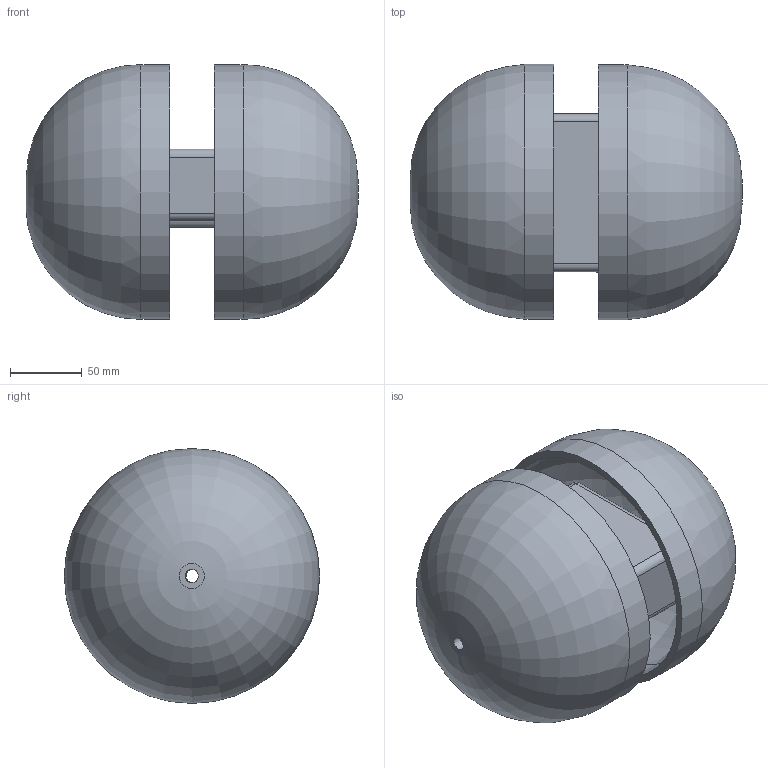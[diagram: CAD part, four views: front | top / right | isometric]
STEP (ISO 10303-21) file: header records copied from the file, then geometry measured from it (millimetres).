
FILE_DESCRIPTION(/* description */ ('STEP AP242 Edition 2','CAx-IF Rec.Pracs.---Representation and Presentation of Product Manufacturing Information (PMI)---4.0---2014-10-13','CAx-IF Rec.Pracs.---3D Tessellated Geometry---0.4---2014-09-14','2;1','CAx-IF Rec.Pracs.---User Defined Attributes---1.5---2016-08-15'),/* implementation_level */ '2;1');
FILE_NAME(/* name */ '6aecd3a61e41b1fa01f00059',/* time_stamp */ '2026-11-05T19:06:15Z',/* author */ (''),/* organization */ (''),/* preprocessor_version */ 'ST-DEVELOPER v20',/* originating_system */ 'ONSHAPE BY PTC INC, 1.223',/* authorisation */ ' ');
FILE_SCHEMA (('AP242_MANAGED_MODEL_BASED_3D_ENGINEERING_MIM_LF { 1 0 10303 442 3 1 4 }'));
Length unit declared in the file: metre
Products named in the file (5): Assembly 1; Part 4; Part 2; Part 3; Part 1
Assembly tree (4 placements, depth 2):
  Assembly 1
    Part 4
    Part 2
    Part 3
    Part 1
Bounding box: 231.07 x 177.66 x 177.37 mm (x, y, z)
Volume: 844966.9 mm3; surface area: 334975.7 mm2
Topology: 4 solids, 4 shells, 88 faces, 204 edges, 110 vertices
Faces by surface type: cylinder 36, plane 30, sphere 16, torus 6
Full cylindrical faces by diameter (mm): 9.146 x2, 10 x4, 19.146 x2, 167.369 x2, 177.369 x2
Entity records: 2313 total; most frequent: DIRECTION 430, CARTESIAN_POINT 353, ORIENTED_EDGE 320, AXIS2_PLACEMENT_3D 177, EDGE_CURVE 160, EDGE_LOOP 120, FACE_BOUND 120, VERTEX_POINT 100
